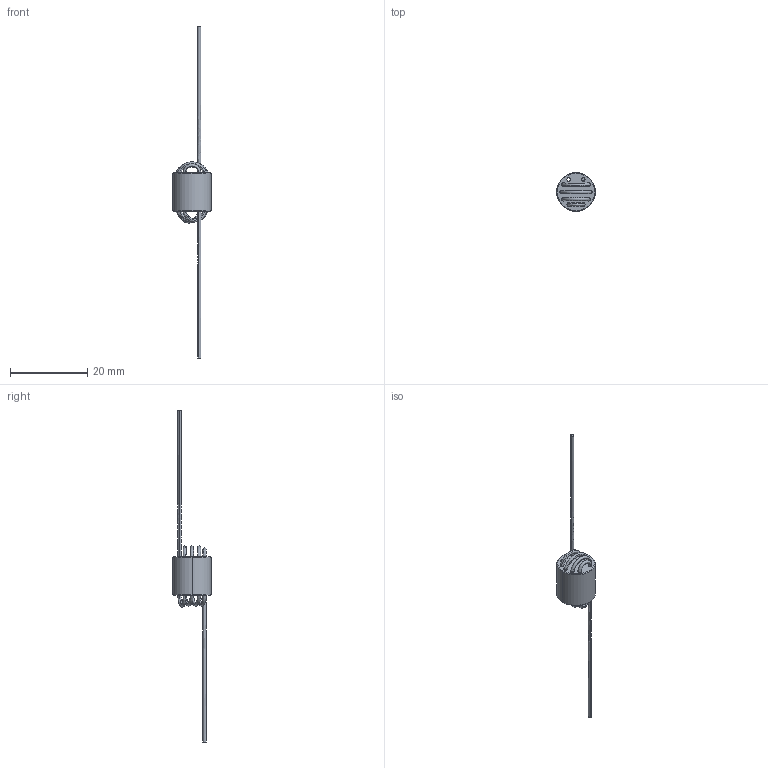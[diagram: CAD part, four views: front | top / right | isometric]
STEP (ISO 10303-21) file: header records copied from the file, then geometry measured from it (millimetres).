
FILE_DESCRIPTION (( 'STEP AP214' ), '1' );
FILE_NAME ('2944777741.STEP', '2025-08-07T18:59:11', ( '' ), ( '' ), 'SwSTEP 2.0', 'SolidWorks 2025', '' );
FILE_SCHEMA (( 'AUTOMOTIVE_DESIGN' ));
Length unit declared in the file: inch
Products named in the file (1): 2944777741
Bounding box: 10.01 x 10.01 x 86 mm (x, y, z)
Volume: 826.2 mm3; surface area: 1378.5 mm2
Topology: 2 solids, 2 shells, 58 faces, 174 edges, 120 vertices
Faces by surface type: cylinder 34, bspline 16, cone 4, plane 4
Entity records: 5912 total; most frequent: CARTESIAN_POINT 4417, ORIENTED_EDGE 348, DIRECTION 236, EDGE_CURVE 174, VERTEX_POINT 120, AXIS2_PLACEMENT_3D 99, B_SPLINE_CURVE_WITH_KNOTS 80, EDGE_LOOP 80
